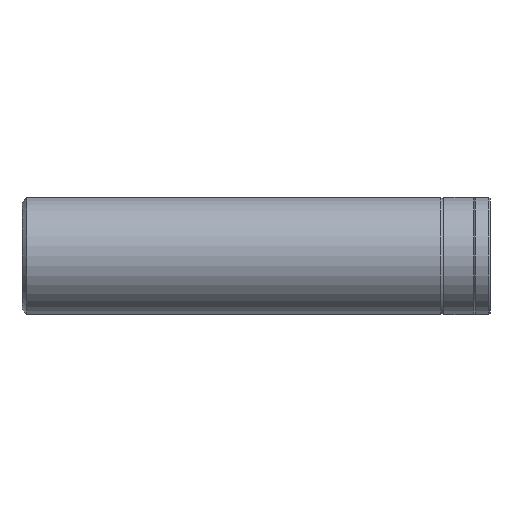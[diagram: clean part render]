
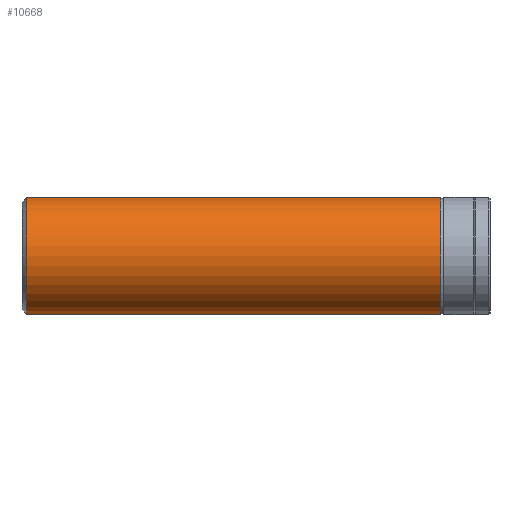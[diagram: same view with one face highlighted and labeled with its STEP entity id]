
A CAD part, left-side view. The second image highlights one B-rep face of the part: STEP entity #10668.
In plain terms, the highlighted cylindrical face has radius 12.5 mm (diameter 25 mm), a partial arc.
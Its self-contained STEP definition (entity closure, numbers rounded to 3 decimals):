
#700 = CARTESIAN_POINT ( 'NONE',  ( 0., 88.107, 0. ) ) ;
#1190 = EDGE_LOOP ( 'NONE', ( #2934, #3355, #2721, #12855 ) ) ;
#1437 = CARTESIAN_POINT ( 'NONE',  ( 0., 89.107, 0. ) ) ;
#1576 = VERTEX_POINT ( 'NONE', #10977 ) ;
#1947 = LINE ( 'NONE', #11478, #7257 ) ;
#2387 = EDGE_CURVE ( 'NONE', #6342, #4878, #1947, .T. ) ;
#2721 = ORIENTED_EDGE ( 'NONE', *, *, #6081, .T. ) ;
#2831 = CARTESIAN_POINT ( 'NONE',  ( 0., 88.107, 12.5 ) ) ;
#2934 = ORIENTED_EDGE ( 'NONE', *, *, #15053, .T. ) ;
#3008 = CIRCLE ( 'NONE', #14303, 12.5 ) ;
#3258 = EDGE_CURVE ( 'NONE', #1576, #10608, #7049, .T. ) ;
#3355 = ORIENTED_EDGE ( 'NONE', *, *, #3258, .T. ) ;
#3356 = AXIS2_PLACEMENT_3D ( 'NONE', #1437, #4941, #14678 ) ;
#3519 = DIRECTION ( 'NONE',  ( 0., 1., 0. ) ) ;
#3958 = CIRCLE ( 'NONE', #10404, 12.5 ) ;
#4638 = CYLINDRICAL_SURFACE ( 'NONE', #3356, 12.5 ) ;
#4878 = VERTEX_POINT ( 'NONE', #5509 ) ;
#4941 = DIRECTION ( 'NONE',  ( 0., -1., 0. ) ) ;
#5047 = CARTESIAN_POINT ( 'NONE',  ( 0., -0.393, -12.5 ) ) ;
#5509 = CARTESIAN_POINT ( 'NONE',  ( 0., -0.393, 12.5 ) ) ;
#5965 = DIRECTION ( 'NONE',  ( 0., 0., -1. ) ) ;
#6068 = CARTESIAN_POINT ( 'NONE',  ( 0., -0.393, 0. ) ) ;
#6081 = EDGE_CURVE ( 'NONE', #10608, #4878, #3958, .T. ) ;
#6282 = VECTOR ( 'NONE', #8124, 1000. ) ;
#6342 = VERTEX_POINT ( 'NONE', #2831 ) ;
#7049 = LINE ( 'NONE', #14313, #6282 ) ;
#7257 = VECTOR ( 'NONE', #13784, 1000. ) ;
#7957 = DIRECTION ( 'NONE',  ( 0., -1., 0. ) ) ;
#8124 = DIRECTION ( 'NONE',  ( 0., -1., 0. ) ) ;
#10136 = FACE_OUTER_BOUND ( 'NONE', #1190, .T. ) ;
#10404 = AXIS2_PLACEMENT_3D ( 'NONE', #6068, #3519, #5965 ) ;
#10608 = VERTEX_POINT ( 'NONE', #5047 ) ;
#10668 = ADVANCED_FACE ( 'NONE', ( #10136 ), #4638, .T. ) ;
#10977 = CARTESIAN_POINT ( 'NONE',  ( 0., 88.107, -12.5 ) ) ;
#11478 = CARTESIAN_POINT ( 'NONE',  ( 0., 89.107, 12.5 ) ) ;
#12855 = ORIENTED_EDGE ( 'NONE', *, *, #2387, .F. ) ;
#12908 = DIRECTION ( 'NONE',  ( 0., 0., -1. ) ) ;
#13784 = DIRECTION ( 'NONE',  ( 0., -1., 0. ) ) ;
#14303 = AXIS2_PLACEMENT_3D ( 'NONE', #700, #7957, #12908 ) ;
#14313 = CARTESIAN_POINT ( 'NONE',  ( 0., 89.107, -12.5 ) ) ;
#14678 = DIRECTION ( 'NONE',  ( 0., 0., 1. ) ) ;
#15053 = EDGE_CURVE ( 'NONE', #6342, #1576, #3008, .T. ) ;
